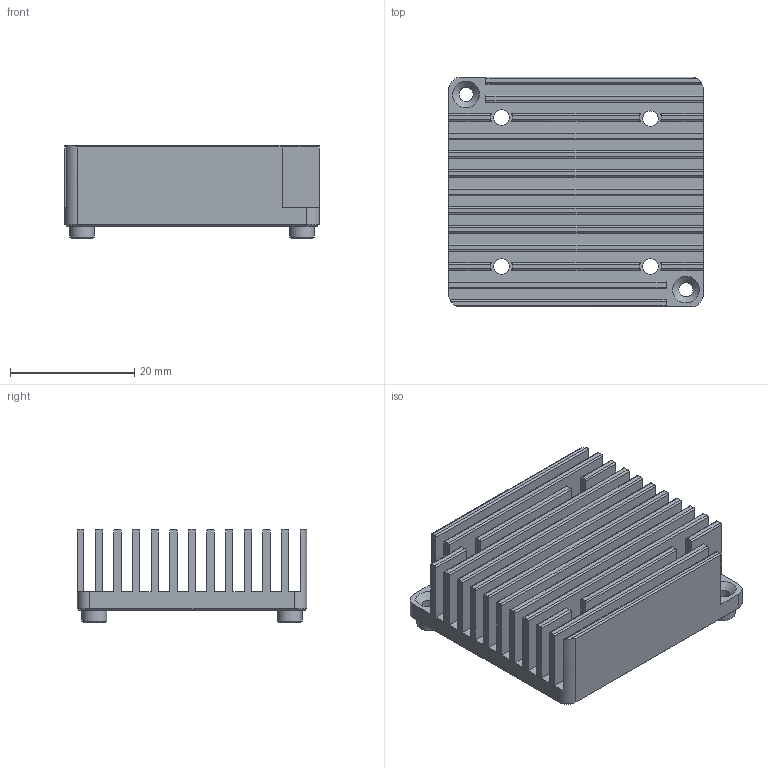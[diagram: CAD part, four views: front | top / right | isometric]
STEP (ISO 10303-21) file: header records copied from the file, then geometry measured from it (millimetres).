
FILE_DESCRIPTION(('STEP AP214'),'1');
FILE_NAME('B.MKUE.15.stp','2026-05-26T05:11:45',(' '),(' '),'Spatial InterOp 3D',' ',' ');
FILE_SCHEMA(('AUTOMOTIVE_DESIGN { 1 0 10303 214 1 1 1 1 }'));
Length unit declared in the file: metre
Products named in the file (3): B.MKUE.15; Headspreader; Spacer
Assembly tree (2 placements, depth 2):
  B.MKUE.15
    Headspreader
    Spacer
Bounding box: 41 x 37 x 15 mm (x, y, z)
Volume: 10319.9 mm3; surface area: 13941.6 mm2
Topology: 3 solids, 3 shells, 140 faces, 385 edges, 255 vertices
Faces by surface type: plane 76, cylinder 56, cone 8
Full cylindrical faces by diameter (mm): 2.3 x2, 2.5 x4, 4 x4
Entity records: 5645 total; most frequent: CARTESIAN_POINT 861, DIRECTION 737, ORIENTED_EDGE 734, EDGE_CURVE 367, VERTEX_POINT 251, AXIS2_PLACEMENT_3D 247, LINE 243, VECTOR 243
